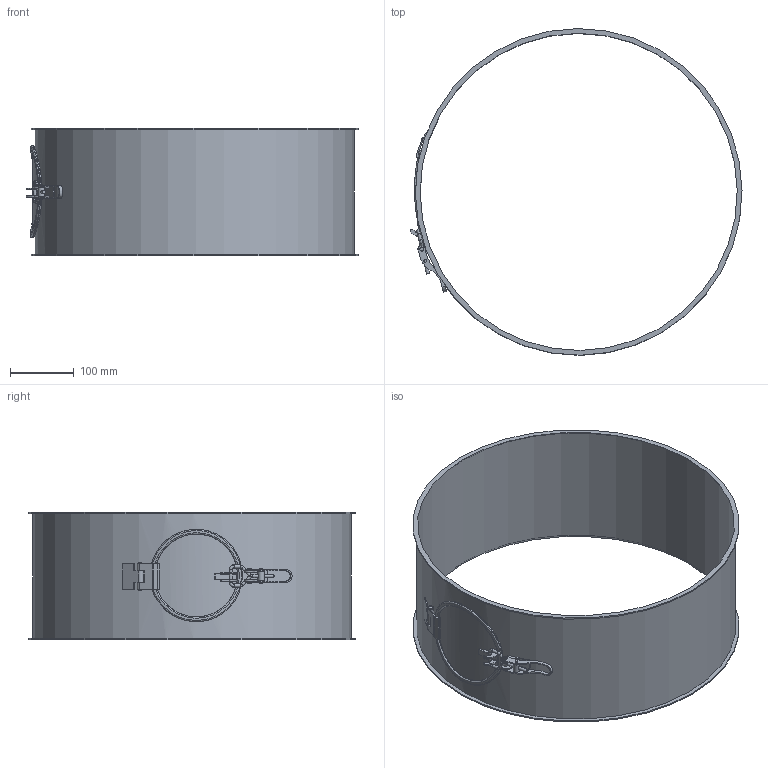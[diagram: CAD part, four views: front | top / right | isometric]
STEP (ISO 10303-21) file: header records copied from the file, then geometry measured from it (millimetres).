
FILE_DESCRIPTION((''),'2;1');
FILE_NAME('U:\Wolfgang\Marcel-3D\fertig\Kapitel 4\5011043.stp','2011-04-21T08:30:10',('TK1'),(''),'Autodesk Inventor 2010','Autodesk Inventor 2010','');
FILE_SCHEMA(('AUTOMOTIVE_DESIGN { 1 0 10303 214 1 1 1 1 }'));
Length unit declared in the file: millimetre
Products named in the file (15): 5011043 (Detailgenauigkeit1); 5011043-1; GelenkDeckel50b; GelenkDeckel1c; Deckel50; Deckel50b; GelenkDeckel35a; VerschlussDeckel50; dichtung50; Verschluss50; Verschluss1b; Verschluss1c; Verschluss1d; Verschluss1e
Assembly tree (15 placements, depth 3):
  5011043 (Detailgenauigkeit1)
    5011043-1
    GelenkDeckel50b
    GelenkDeckel1c
    Deckel50
      Deckel50b
      GelenkDeckel35a
      VerschlussDeckel50
      dichtung50
    Verschluss50
      Verschluss50
      Verschluss1b
      Verschluss1c
      Verschluss1d  x2
      Verschluss1e
Bounding box: 521.42 x 512.98 x 200 mm (x, y, z)
Volume: 545422.1 mm3; surface area: 707542.3 mm2
Topology: 13 solids, 13 shells, 177 faces, 416 edges, 269 vertices
Faces by surface type: cylinder 81, plane 80, torus 9, bspline 5, sphere 2
Full cylindrical faces by diameter (mm): 2 x4, 4 x4, 5 x6, 6 x6, 6.2 x2, 10 x1, 115 x1, 130 x1, 135 x1, 145 x1, 498 x1, 501 x1, 513 x2
Entity records: 6721 total; most frequent: CARTESIAN_POINT 2464, DIRECTION 862, ORIENTED_EDGE 710, EDGE_CURVE 355, AXIS2_PLACEMENT_3D 341, VERTEX_POINT 252, EDGE_LOOP 241, VECTOR 180
